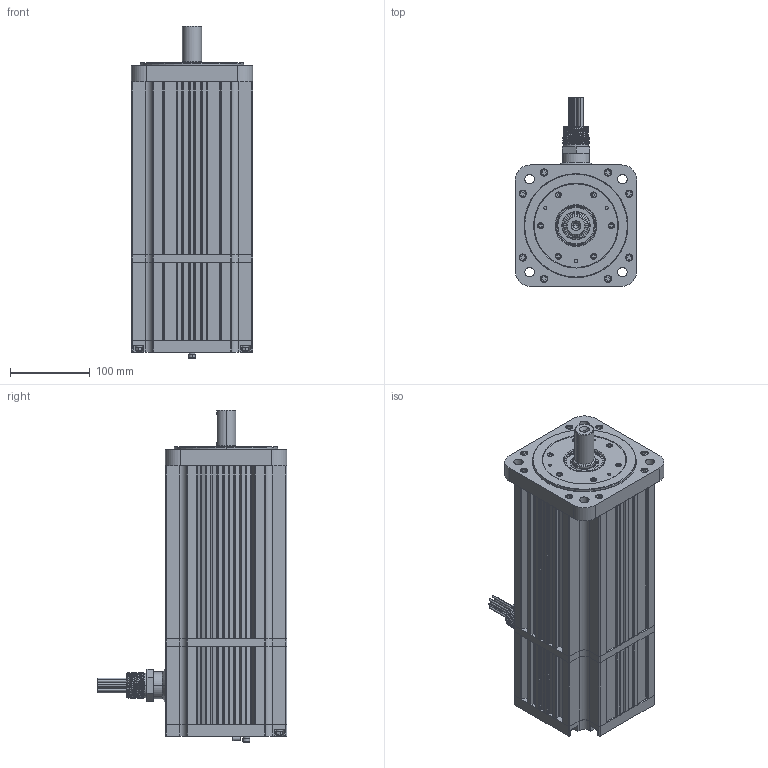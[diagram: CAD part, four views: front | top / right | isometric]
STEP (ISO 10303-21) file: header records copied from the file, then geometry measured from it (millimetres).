
FILE_DESCRIPTION (( 'STEP AP203' ), '1' );
FILE_NAME ('M462-GNS0-ED0C.STEP', '2019-12-09T19:17:35', ( '' ), ( '' ), 'SwSTEP 2.0', 'SolidWorks 2016', '' );
FILE_SCHEMA (( 'CONFIG_CONTROL_DESIGN' ));
Products named in the file (1): M462-GNS0-ED0C
Bounding box: 152.4 x 238 x 416.68 mm (x, y, z)
Volume: 3956545.1 mm3; surface area: 744325.7 mm2
Topology: 58 solids, 58 shells, 2185 faces, 5175 edges, 3236 vertices
Faces by surface type: cylinder 923, plane 758, cone 364, torus 121, bspline 19
Entity records: 71303 total; most frequent: CARTESIAN_POINT 19614, DIRECTION 11485, ORIENTED_EDGE 10174, EDGE_CURVE 5087, AXIS2_PLACEMENT_3D 4469, VERTEX_POINT 3236, VECTOR 2547, LINE 2547
